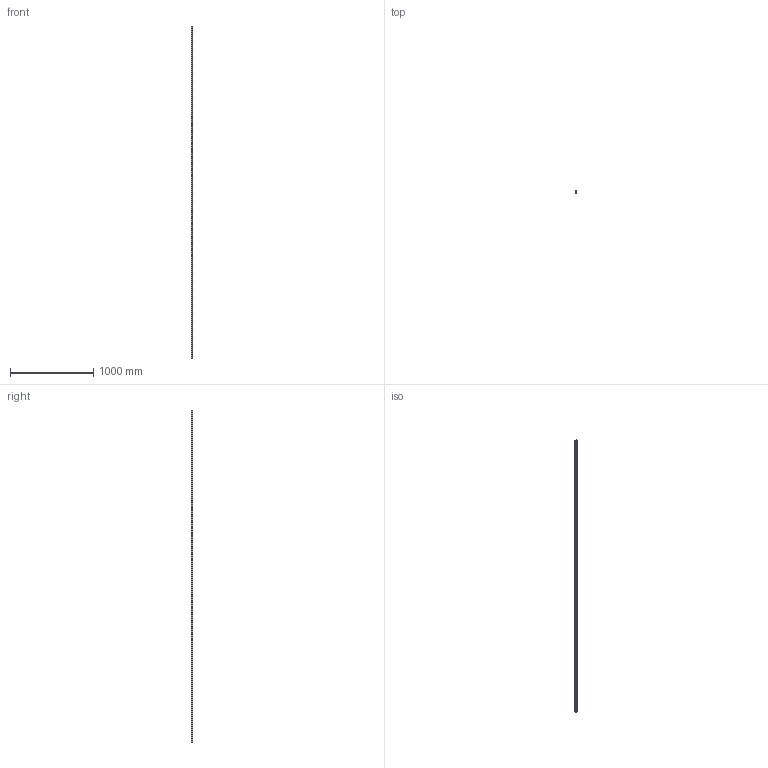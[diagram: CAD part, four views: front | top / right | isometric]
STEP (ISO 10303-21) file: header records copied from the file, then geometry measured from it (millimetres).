
FILE_DESCRIPTION (( 'STEP AP203' ), '1' );
FILE_NAME ('L1016.BRF25-4000.step', '2019-06-13T08:49:28', ( '' ), ( '' ), 'SwSTEP 2.0', 'SolidWorks 2017', '' );
FILE_SCHEMA (( 'CONFIG_CONTROL_DESIGN' ));
Length unit declared in the file: millimetre
Products named in the file (1): L1016.BRF25-4000
Bounding box: 23 x 19.2 x 4000 mm (x, y, z)
Volume: 1527264.6 mm3; surface area: 367788.9 mm2
Topology: 1 solids, 1 shells, 495 faces, 1144 edges, 651 vertices
Faces by surface type: cylinder 272, cone 134, plane 89
Entity records: 13229 total; most frequent: DIRECTION 2546, CARTESIAN_POINT 2157, ORIENTED_EDGE 2020, AXIS2_PLACEMENT_3D 1040, EDGE_CURVE 1010, VERTEX_POINT 651, EDGE_LOOP 629, CIRCLE 544
